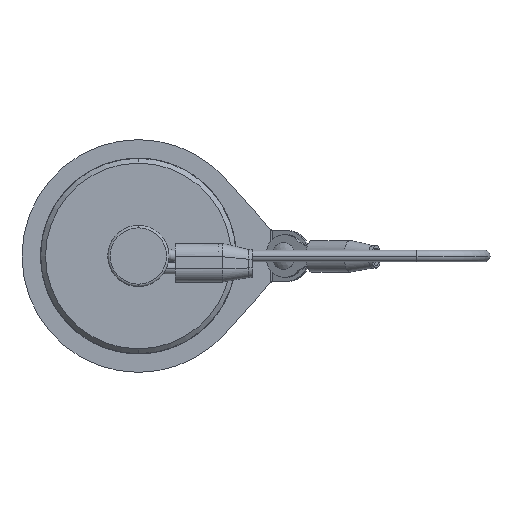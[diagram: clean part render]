
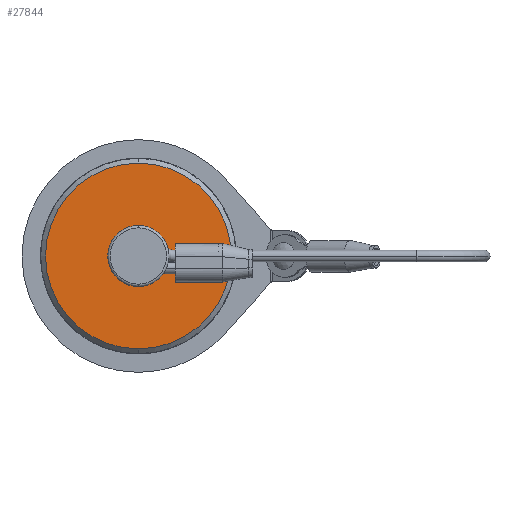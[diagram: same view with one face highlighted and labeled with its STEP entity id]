
A CAD part, left-side view. The second image highlights one B-rep face of the part: STEP entity #27844.
In plain terms, the highlighted planar face has unit normal (-1, 0, 0).
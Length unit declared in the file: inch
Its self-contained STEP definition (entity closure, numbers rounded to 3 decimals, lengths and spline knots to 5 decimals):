
#1889 = ORIENTED_EDGE ( 'NONE', *, *, #74961, .F. ) ;
#4861 = DIRECTION ( 'NONE',  ( 0., 0., 1. ) ) ;
#7849 = CARTESIAN_POINT ( 'NONE',  ( 0.25, 0., 0.7585 ) ) ;
#8015 = CARTESIAN_POINT ( 'NONE',  ( 0.25, 0., 0. ) ) ;
#8672 = CIRCLE ( 'NONE', #14892, 0.25 ) ;
#8776 = EDGE_LOOP ( 'NONE', ( #36761, #69412 ) ) ;
#12139 = FACE_BOUND ( 'NONE', #8776, .T. ) ;
#12204 = DIRECTION ( 'NONE',  ( 1., 0., 0. ) ) ;
#14892 = AXIS2_PLACEMENT_3D ( 'NONE', #8015, #44792, #53486 ) ;
#16663 = VERTEX_POINT ( 'NONE', #27476 ) ;
#20328 = DIRECTION ( 'NONE',  ( -1., 0., 0. ) ) ;
#21012 = CARTESIAN_POINT ( 'NONE',  ( 0.25, 0., -0.25 ) ) ;
#21428 = EDGE_CURVE ( 'NONE', #66683, #73928, #62848, .T. ) ;
#22575 = AXIS2_PLACEMENT_3D ( 'NONE', #86790, #34972, #28668 ) ;
#27027 = AXIS2_PLACEMENT_3D ( 'NONE', #85767, #12204, #42656 ) ;
#27476 = CARTESIAN_POINT ( 'NONE',  ( 0.25, 0., 0.25 ) ) ;
#27844 = ADVANCED_FACE ( 'NONE', ( #12139, #34838 ), #41648, .T. ) ;
#28668 = DIRECTION ( 'NONE',  ( 0., 0., -1. ) ) ;
#33197 = EDGE_CURVE ( 'NONE', #16663, #70735, #8672, .T. ) ;
#33499 = CARTESIAN_POINT ( 'NONE',  ( 0.25, 0., -0.7585 ) ) ;
#34363 = CARTESIAN_POINT ( 'NONE',  ( 0.25, 0.7585, 0. ) ) ;
#34838 = FACE_OUTER_BOUND ( 'NONE', #77657, .T. ) ;
#34972 = DIRECTION ( 'NONE',  ( 1., 0., 0. ) ) ;
#36761 = ORIENTED_EDGE ( 'NONE', *, *, #41593, .T. ) ;
#37532 = AXIS2_PLACEMENT_3D ( 'NONE', #34363, #20328, #4861 ) ;
#38508 = CIRCLE ( 'NONE', #44723, 0.25 ) ;
#40064 = DIRECTION ( 'NONE',  ( 1., 0., 0. ) ) ;
#41593 = EDGE_CURVE ( 'NONE', #70735, #16663, #38508, .T. ) ;
#41648 = PLANE ( 'NONE',  #37532 ) ;
#42656 = DIRECTION ( 'NONE',  ( 0., 0., -1. ) ) ;
#44723 = AXIS2_PLACEMENT_3D ( 'NONE', #76863, #40064, #69614 ) ;
#44792 = DIRECTION ( 'NONE',  ( 1., 0., 0. ) ) ;
#52721 = ORIENTED_EDGE ( 'NONE', *, *, #21428, .F. ) ;
#53486 = DIRECTION ( 'NONE',  ( 0., 0., -1. ) ) ;
#54918 = CIRCLE ( 'NONE', #27027, 0.7585 ) ;
#62848 = CIRCLE ( 'NONE', #22575, 0.7585 ) ;
#66683 = VERTEX_POINT ( 'NONE', #33499 ) ;
#69412 = ORIENTED_EDGE ( 'NONE', *, *, #33197, .T. ) ;
#69614 = DIRECTION ( 'NONE',  ( 0., 0., -1. ) ) ;
#70735 = VERTEX_POINT ( 'NONE', #21012 ) ;
#73928 = VERTEX_POINT ( 'NONE', #7849 ) ;
#74961 = EDGE_CURVE ( 'NONE', #73928, #66683, #54918, .T. ) ;
#76863 = CARTESIAN_POINT ( 'NONE',  ( 0.25, 0., 0. ) ) ;
#77657 = EDGE_LOOP ( 'NONE', ( #52721, #1889 ) ) ;
#85767 = CARTESIAN_POINT ( 'NONE',  ( 0.25, 0., 0. ) ) ;
#86790 = CARTESIAN_POINT ( 'NONE',  ( 0.25, 0., 0. ) ) ;
